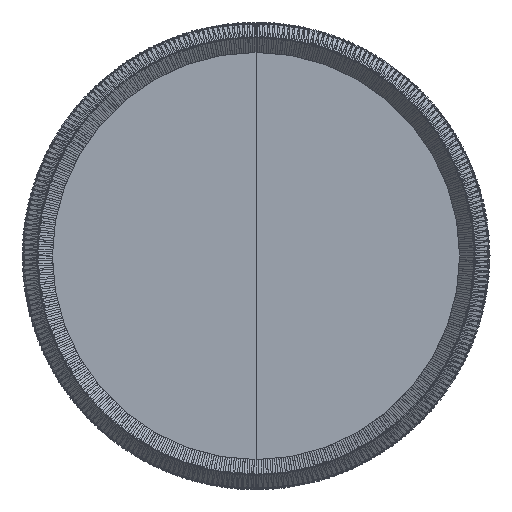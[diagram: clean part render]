
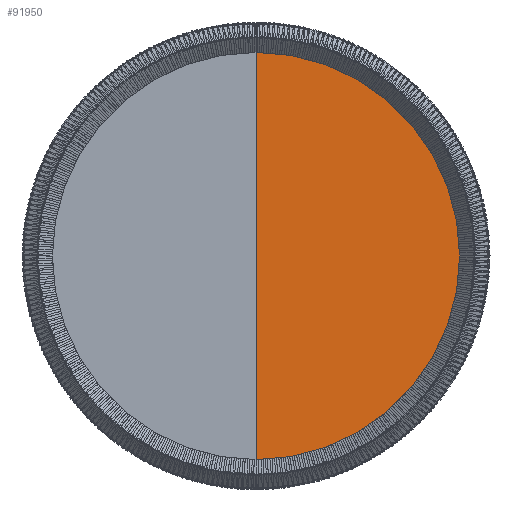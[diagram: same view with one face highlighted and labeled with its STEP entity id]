
A CAD part, top view. The second image highlights one B-rep face of the part: STEP entity #91950.
In plain terms, the highlighted planar face has unit normal (0, 0, 1).
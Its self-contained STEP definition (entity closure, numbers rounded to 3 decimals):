
#9976=PLANE('',#97421);
#15823=FACE_OUTER_BOUND('',#21770,.T.);
#21770=EDGE_LOOP('',(#85368,#85369));
#31420=LINE('',#155520,#41107);
#41107=VECTOR('',#116035,304.8);
#41381=CIRCLE('',#97422,307.117);
#49231=VERTEX_POINT('',#155518);
#49232=VERTEX_POINT('',#155519);
#61294=EDGE_CURVE('',#49231,#49232,#31420,.T.);
#61295=EDGE_CURVE('',#49232,#49231,#41381,.T.);
#85368=ORIENTED_EDGE('',*,*,#61294,.F.);
#85369=ORIENTED_EDGE('',*,*,#61295,.F.);
#91950=ADVANCED_FACE('',(#15823),#9976,.T.);
#97421=AXIS2_PLACEMENT_3D('',#155517,#116033,#116034);
#97422=AXIS2_PLACEMENT_3D('',#155521,#116036,#116037);
#116033=DIRECTION('center_axis',(0.,0.,1.));
#116034=DIRECTION('ref_axis',(0.,1.,0.));
#116035=DIRECTION('',(0.,1.,0.));
#116036=DIRECTION('center_axis',(0.,0.,-1.));
#116037=DIRECTION('ref_axis',(0.,1.,0.));
#155517=CARTESIAN_POINT('Origin',(0.,0.,257.228));
#155518=CARTESIAN_POINT('',(0.,-307.117,257.228));
#155519=CARTESIAN_POINT('',(0.,307.117,257.228));
#155520=CARTESIAN_POINT('',(0.,-307.117,257.228));
#155521=CARTESIAN_POINT('Origin',(0.,0.,257.228));
